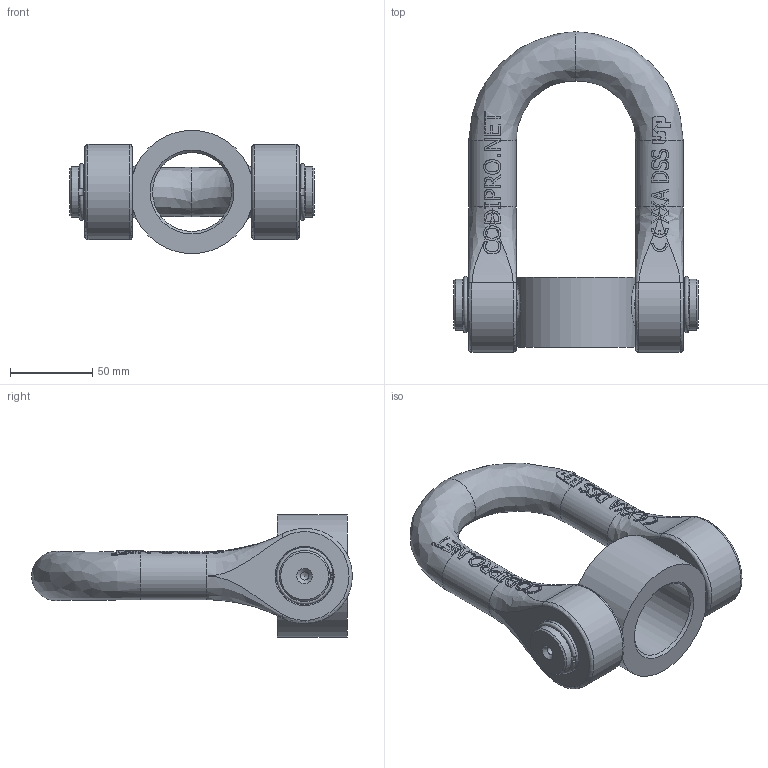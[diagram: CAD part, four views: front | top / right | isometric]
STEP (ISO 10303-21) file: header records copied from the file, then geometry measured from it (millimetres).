
FILE_DESCRIPTION(/* description */ ('Shackle + Crossbar N3x48 UP'),/* implementation_level */ '2;1');
FILE_NAME(/* name */ 'W:\CODIPRO\DOCUMENTS\Plans A NE PAS DIFFUSER !!!\Fichiers STEP\Gamme 2018\Produits GRADUP\DSS UP\DSS_N3X48_UP.stp',/* time_stamp */ '2017-10-24T11:54:50+02:00',/* author */ ('rklenes'),/* organization */ (''),/* preprocessor_version */ 'ST-DEVELOPER v16.5',/* originating_system */ 'Autodesk Inventor 2017',/* authorisation */ '');
FILE_SCHEMA (('AUTOMOTIVE_DESIGN { 1 0 10303 214 3 1 1 }'));
Length unit declared in the file: millimetre
Products named in the file (4): DSS_N3X48; DSM_N3X48; DSM_N3; DIN 7993 - A 32
Assembly tree (4 placements, depth 2):
  DSS_N3X48
    DSM_N3X48
    DSM_N3
    DIN 7993 - A 32  x2
Bounding box: 148.5 x 195 x 74.72 mm (x, y, z)
Volume: 490207.5 mm3; surface area: 81607.1 mm2
Topology: 4 solids, 4 shells, 401 faces, 1130 edges, 754 vertices
Faces by surface type: plane 169, bspline 142, cylinder 64, cone 14, torus 12
Full cylindrical faces by diameter (mm): 4.917 x2, 29 x2, 31 x4, 32.25 x2, 48 x1
Entity records: 16495 total; most frequent: CARTESIAN_POINT 7036, ORIENTED_EDGE 2182, DIRECTION 1523, EDGE_CURVE 1091, VERTEX_POINT 744, AXIS2_PLACEMENT_3D 566, EDGE_LOOP 449, B_SPLINE_CURVE_WITH_KNOTS 398
